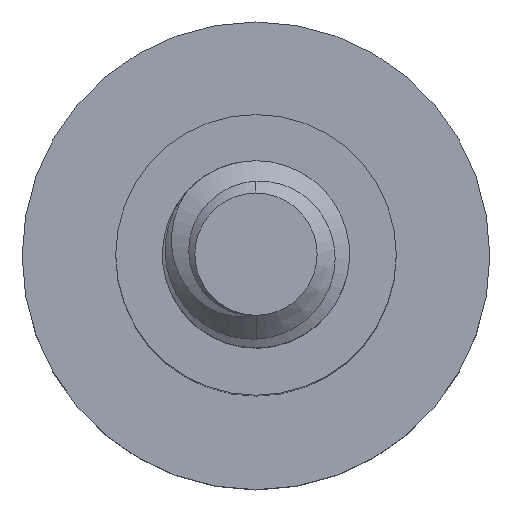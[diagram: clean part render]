
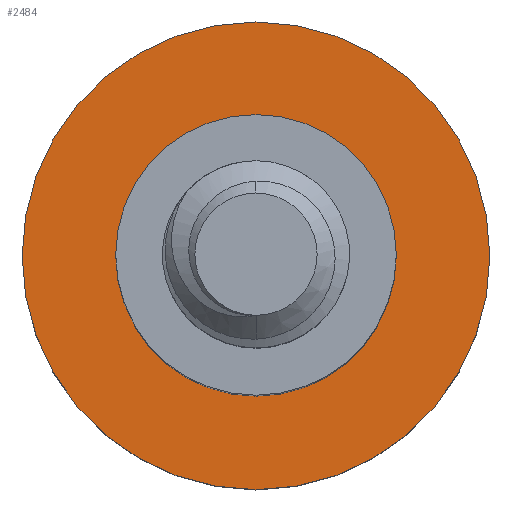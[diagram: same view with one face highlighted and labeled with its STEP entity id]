
A CAD part, top view. The second image highlights one B-rep face of the part: STEP entity #2484.
In plain terms, the highlighted planar face has unit normal (0, 0, 1).
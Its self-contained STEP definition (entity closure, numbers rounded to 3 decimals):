
#37 = CARTESIAN_POINT ( 'NONE',  ( -1.5, 0., -6. ) ) ;
#49 = ORIENTED_EDGE ( 'NONE', *, *, #1308, .F. ) ;
#97 = DIRECTION ( 'NONE',  ( 0., 0., -1. ) ) ;
#150 = AXIS2_PLACEMENT_3D ( 'NONE', #635, #767, #2116 ) ;
#173 = CARTESIAN_POINT ( 'NONE',  ( 0., 0., -6. ) ) ;
#324 = CARTESIAN_POINT ( 'NONE',  ( 2.5, 0., -6. ) ) ;
#363 = EDGE_CURVE ( 'NONE', #1705, #834, #825, .T. ) ;
#503 = CARTESIAN_POINT ( 'NONE',  ( 0., 0., -6. ) ) ;
#513 = CARTESIAN_POINT ( 'NONE',  ( -2.5, 0., -6. ) ) ;
#635 = CARTESIAN_POINT ( 'NONE',  ( 0., 0., -6. ) ) ;
#674 = ORIENTED_EDGE ( 'NONE', *, *, #363, .F. ) ;
#767 = DIRECTION ( 'NONE',  ( 0., 0., -1. ) ) ;
#793 = CIRCLE ( 'NONE', #1924, 1.5 ) ;
#802 = EDGE_LOOP ( 'NONE', ( #49, #674 ) ) ;
#806 = ORIENTED_EDGE ( 'NONE', *, *, #1173, .T. ) ;
#825 = CIRCLE ( 'NONE', #1358, 2.5 ) ;
#834 = VERTEX_POINT ( 'NONE', #324 ) ;
#949 = PLANE ( 'NONE',  #150 ) ;
#979 = DIRECTION ( 'NONE',  ( 0., 0., -1. ) ) ;
#1067 = AXIS2_PLACEMENT_3D ( 'NONE', #1789, #1579, #2124 ) ;
#1140 = FACE_BOUND ( 'NONE', #1273, .T. ) ;
#1166 = DIRECTION ( 'NONE',  ( -1., 0., 0. ) ) ;
#1173 = EDGE_CURVE ( 'NONE', #2331, #1832, #793, .T. ) ;
#1273 = EDGE_LOOP ( 'NONE', ( #2481, #806 ) ) ;
#1308 = EDGE_CURVE ( 'NONE', #834, #1705, #1312, .T. ) ;
#1312 = CIRCLE ( 'NONE', #1804, 2.5 ) ;
#1358 = AXIS2_PLACEMENT_3D ( 'NONE', #2294, #979, #1888 ) ;
#1579 = DIRECTION ( 'NONE',  ( 0., 0., -1. ) ) ;
#1705 = VERTEX_POINT ( 'NONE', #513 ) ;
#1789 = CARTESIAN_POINT ( 'NONE',  ( 0., 0., -6. ) ) ;
#1804 = AXIS2_PLACEMENT_3D ( 'NONE', #173, #1911, #1166 ) ;
#1832 = VERTEX_POINT ( 'NONE', #37 ) ;
#1854 = EDGE_CURVE ( 'NONE', #1832, #2331, #2405, .T. ) ;
#1888 = DIRECTION ( 'NONE',  ( -1., 0., 0. ) ) ;
#1911 = DIRECTION ( 'NONE',  ( 0., 0., -1. ) ) ;
#1916 = FACE_OUTER_BOUND ( 'NONE', #802, .T. ) ;
#1924 = AXIS2_PLACEMENT_3D ( 'NONE', #503, #97, #2392 ) ;
#2116 = DIRECTION ( 'NONE',  ( -1., 0., 0. ) ) ;
#2124 = DIRECTION ( 'NONE',  ( -1., 0., 0. ) ) ;
#2294 = CARTESIAN_POINT ( 'NONE',  ( 0., 0., -6. ) ) ;
#2331 = VERTEX_POINT ( 'NONE', #2419 ) ;
#2392 = DIRECTION ( 'NONE',  ( -1., 0., 0. ) ) ;
#2405 = CIRCLE ( 'NONE', #1067, 1.5 ) ;
#2419 = CARTESIAN_POINT ( 'NONE',  ( 1.5, 0., -6. ) ) ;
#2481 = ORIENTED_EDGE ( 'NONE', *, *, #1854, .T. ) ;
#2484 = ADVANCED_FACE ( 'NONE', ( #1140, #1916 ), #949, .F. ) ;
